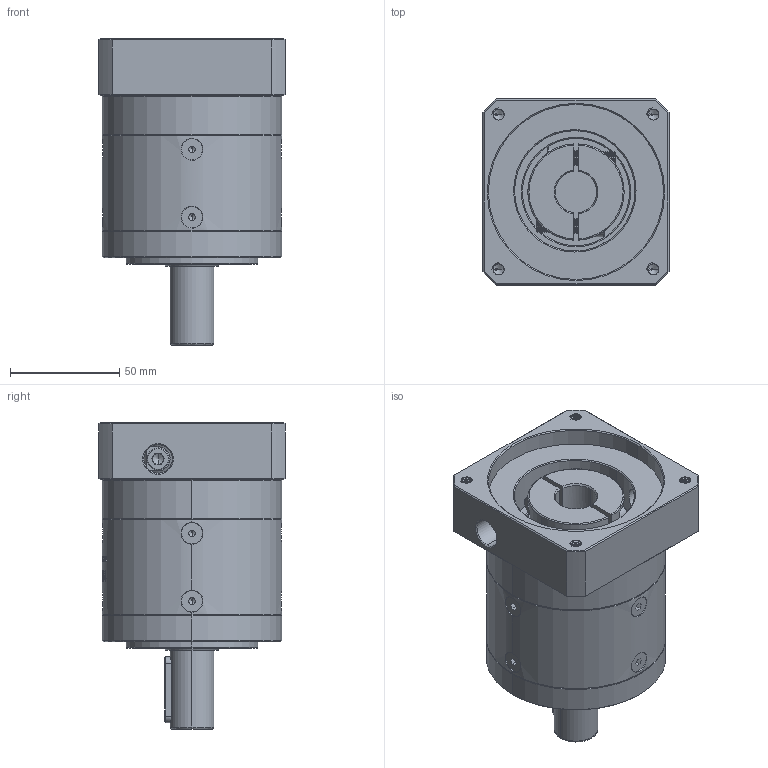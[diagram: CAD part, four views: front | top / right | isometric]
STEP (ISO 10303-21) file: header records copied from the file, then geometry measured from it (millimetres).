
FILE_DESCRIPTION (( 'STEP AP214' ), '1' );
FILE_NAME ('ZE80-D20-L1-19-80-100-M6.step', '2022-05-08T05:50:47', ( '' ), ( 'Microsoft' ), 'SwSTEP 2.0', 'SolidWorks 2016', '' );
FILE_SCHEMA (( 'AUTOMOTIVE_DESIGN' ));
Length unit declared in the file: millimetre
Products named in the file (1): ZE80-D20-L1-19-80-100-M6
Bounding box: 85 x 85 x 140 mm (x, y, z)
Volume: 508915.2 mm3; surface area: 85411.6 mm2
Topology: 13 solids, 13 shells, 2065 faces, 5377 edges, 3401 vertices
Faces by surface type: plane 891, cylinder 500, bspline 332, cone 325, torus 17
Entity records: 118396 total; most frequent: CARTESIAN_POINT 49408, ORIENTED_EDGE 10678, DIRECTION 8205, EDGE_CURVE 5339, VERTEX_POINT 3401, LINE 2861, VECTOR 2861, AXIS2_PLACEMENT_3D 2672
